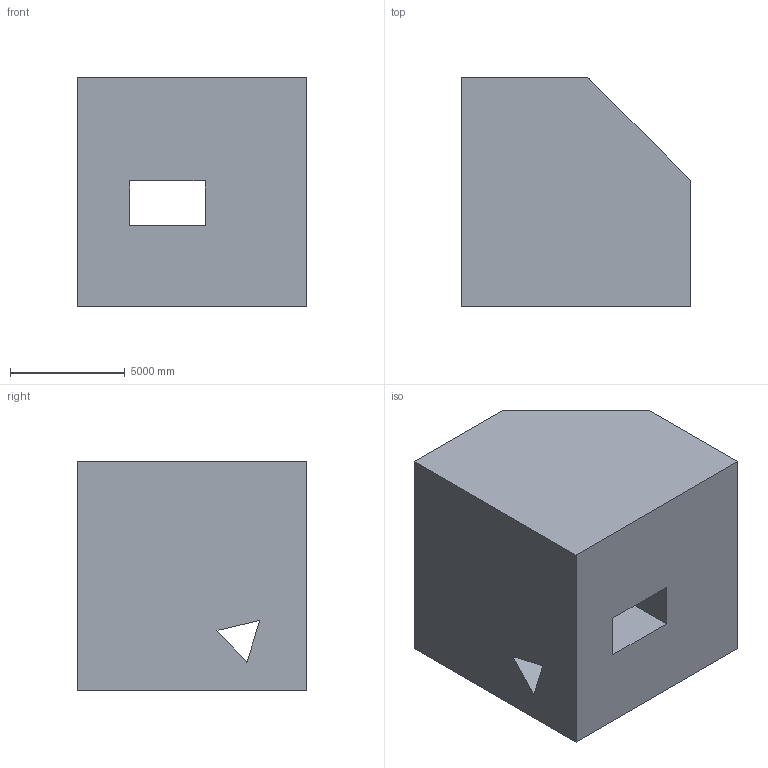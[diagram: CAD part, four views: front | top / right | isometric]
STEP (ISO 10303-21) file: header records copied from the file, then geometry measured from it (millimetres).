
FILE_DESCRIPTION (( 'STEP AP203' ), '1' );
FILE_NAME ('1228.STEP', '2022-08-18T13:17:18', ( 'user' ), ( '' ), 'SwSTEP 2.0', 'SolidWorks 2021', '' );
FILE_SCHEMA (( 'CONFIG_CONTROL_DESIGN' ));
Length unit declared in the file: centimetre
Products named in the file (1): 1228
Bounding box: 10000 x 10000 x 10000 mm (x, y, z)
Volume: 818799410741.5 mm3; surface area: 699603169.3 mm2
Topology: 1 solids, 1 shells, 14 faces, 39 edges, 26 vertices
Faces by surface type: plane 14
Entity records: 528 total; most frequent: CARTESIAN_POINT 80, ORIENTED_EDGE 78, DIRECTION 69, VECTOR 39, EDGE_CURVE 39, LINE 39, VERTEX_POINT 26, EDGE_LOOP 17
